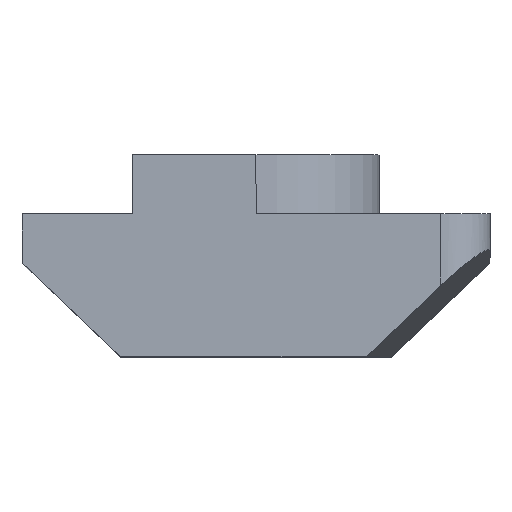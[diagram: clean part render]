
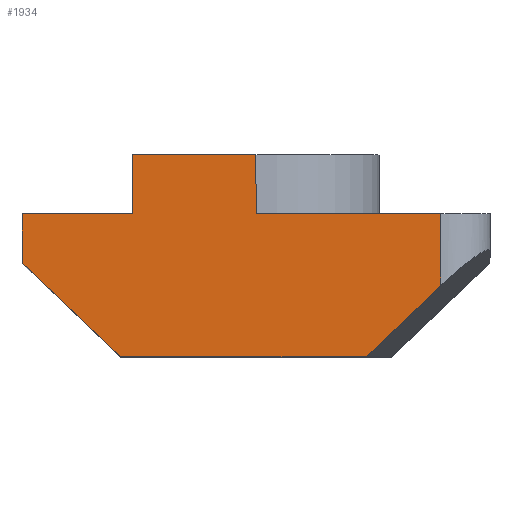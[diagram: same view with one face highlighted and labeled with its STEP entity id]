
A CAD part, top view. The second image highlights one B-rep face of the part: STEP entity #1934.
In plain terms, the highlighted planar face has unit normal (0, 0, 1).
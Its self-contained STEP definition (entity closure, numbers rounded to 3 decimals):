
#33 = VECTOR ( 'NONE', #515, 1000. ) ;
#40 = DIRECTION ( 'NONE',  ( 0., 0., 1. ) ) ;
#93 = FACE_OUTER_BOUND ( 'NONE', #1431, .T. ) ;
#141 = ORIENTED_EDGE ( 'NONE', *, *, #2333, .F. ) ;
#143 = CARTESIAN_POINT ( 'NONE',  ( -5.5, 0., 5. ) ) ;
#177 = LINE ( 'NONE', #3075, #1400 ) ;
#364 = CARTESIAN_POINT ( 'NONE',  ( 0., 0., 5. ) ) ;
#378 = VERTEX_POINT ( 'NONE', #2121 ) ;
#396 = VERTEX_POINT ( 'NONE', #143 ) ;
#505 = VECTOR ( 'NONE', #2430, 1000. ) ;
#515 = DIRECTION ( 'NONE',  ( 0., 1., 0. ) ) ;
#632 = VECTOR ( 'NONE', #1448, 1000. ) ;
#672 = EDGE_CURVE ( 'NONE', #396, #1101, #177, .T. ) ;
#752 = VECTOR ( 'NONE', #907, 1000. ) ;
#765 = EDGE_CURVE ( 'NONE', #3116, #1890, #2593, .T. ) ;
#816 = CARTESIAN_POINT ( 'NONE',  ( 7.5, 5.8, 5. ) ) ;
#847 = CARTESIAN_POINT ( 'NONE',  ( 7.5, 0., 5. ) ) ;
#878 = ORIENTED_EDGE ( 'NONE', *, *, #672, .F. ) ;
#902 = ORIENTED_EDGE ( 'NONE', *, *, #2078, .T. ) ;
#907 = DIRECTION ( 'NONE',  ( 0.725, 0.689, 0. ) ) ;
#912 = EDGE_CURVE ( 'NONE', #1113, #2270, #3089, .T. ) ;
#952 = ORIENTED_EDGE ( 'NONE', *, *, #1253, .T. ) ;
#1058 = ORIENTED_EDGE ( 'NONE', *, *, #2408, .T. ) ;
#1101 = VERTEX_POINT ( 'NONE', #2154 ) ;
#1113 = VERTEX_POINT ( 'NONE', #1748 ) ;
#1148 = VECTOR ( 'NONE', #1411, 1000. ) ;
#1172 = LINE ( 'NONE', #847, #33 ) ;
#1230 = CARTESIAN_POINT ( 'NONE',  ( 2.123, -2.235, 5. ) ) ;
#1253 = EDGE_CURVE ( 'NONE', #1557, #2270, #1172, .T. ) ;
#1304 = ORIENTED_EDGE ( 'NONE', *, *, #765, .F. ) ;
#1353 = ORIENTED_EDGE ( 'NONE', *, *, #3181, .T. ) ;
#1400 = VECTOR ( 'NONE', #2747, 1000. ) ;
#1411 = DIRECTION ( 'NONE',  ( 1., 0., 0. ) ) ;
#1431 = EDGE_LOOP ( 'NONE', ( #1058, #952, #1818, #1463, #141, #1624, #1304, #902, #878, #1353 ) ) ;
#1432 = EDGE_CURVE ( 'NONE', #378, #1113, #2112, .T. ) ;
#1448 = DIRECTION ( 'NONE',  ( 0., -1., 0. ) ) ;
#1463 = ORIENTED_EDGE ( 'NONE', *, *, #1432, .F. ) ;
#1499 = VECTOR ( 'NONE', #1787, 1000. ) ;
#1557 = VERTEX_POINT ( 'NONE', #1805 ) ;
#1569 = LINE ( 'NONE', #1230, #752 ) ;
#1624 = ORIENTED_EDGE ( 'NONE', *, *, #1957, .T. ) ;
#1642 = DIRECTION ( 'NONE',  ( 1., 0., 0. ) ) ;
#1748 = CARTESIAN_POINT ( 'NONE',  ( 0., 5.8, 5. ) ) ;
#1785 = CARTESIAN_POINT ( 'NONE',  ( 0., 8.2, 5. ) ) ;
#1787 = DIRECTION ( 'NONE',  ( 0., -1., 0. ) ) ;
#1805 = CARTESIAN_POINT ( 'NONE',  ( 7.5, 2.873, 5. ) ) ;
#1818 = ORIENTED_EDGE ( 'NONE', *, *, #912, .F. ) ;
#1890 = VERTEX_POINT ( 'NONE', #2845 ) ;
#1934 = ADVANCED_FACE ( 'NONE', ( #93 ), #2018, .T. ) ;
#1941 = DIRECTION ( 'NONE',  ( 0., -1., 0. ) ) ;
#1957 = EDGE_CURVE ( 'NONE', #2563, #1890, #2609, .T. ) ;
#1973 = CARTESIAN_POINT ( 'NONE',  ( -9.5, 0., 5. ) ) ;
#2018 = PLANE ( 'NONE',  #2108 ) ;
#2060 = DIRECTION ( 'NONE',  ( 1., 0., 0. ) ) ;
#2078 = EDGE_CURVE ( 'NONE', #3116, #1101, #2451, .T. ) ;
#2108 = AXIS2_PLACEMENT_3D ( 'NONE', #364, #40, #2938 ) ;
#2112 = LINE ( 'NONE', #1785, #632 ) ;
#2114 = CARTESIAN_POINT ( 'NONE',  ( -9.5, 5.8, 5. ) ) ;
#2121 = CARTESIAN_POINT ( 'NONE',  ( 0., 8.2, 5. ) ) ;
#2154 = CARTESIAN_POINT ( 'NONE',  ( -9.5, 3.8, 5. ) ) ;
#2260 = CARTESIAN_POINT ( 'NONE',  ( -9.5, 5.8, 5. ) ) ;
#2270 = VERTEX_POINT ( 'NONE', #816 ) ;
#2276 = CARTESIAN_POINT ( 'NONE',  ( -5., 8.2, 5. ) ) ;
#2312 = LINE ( 'NONE', #1973, #2488 ) ;
#2333 = EDGE_CURVE ( 'NONE', #2563, #378, #2728, .T. ) ;
#2397 = CARTESIAN_POINT ( 'NONE',  ( -5., 8.2, 5. ) ) ;
#2408 = EDGE_CURVE ( 'NONE', #2969, #1557, #1569, .T. ) ;
#2423 = VECTOR ( 'NONE', #1941, 1000. ) ;
#2430 = DIRECTION ( 'NONE',  ( 1., 0., 0. ) ) ;
#2451 = LINE ( 'NONE', #2114, #1499 ) ;
#2488 = VECTOR ( 'NONE', #1642, 1000. ) ;
#2563 = VERTEX_POINT ( 'NONE', #3074 ) ;
#2593 = LINE ( 'NONE', #2260, #1148 ) ;
#2609 = LINE ( 'NONE', #2276, #2423 ) ;
#2728 = LINE ( 'NONE', #2397, #2775 ) ;
#2747 = DIRECTION ( 'NONE',  ( -0.725, 0.689, 0. ) ) ;
#2764 = CARTESIAN_POINT ( 'NONE',  ( -9.5, 5.8, 5. ) ) ;
#2775 = VECTOR ( 'NONE', #2060, 1000. ) ;
#2797 = CARTESIAN_POINT ( 'NONE',  ( -9.5, 5.8, 5. ) ) ;
#2845 = CARTESIAN_POINT ( 'NONE',  ( -5., 5.8, 5. ) ) ;
#2938 = DIRECTION ( 'NONE',  ( 1., 0., 0. ) ) ;
#2969 = VERTEX_POINT ( 'NONE', #3097 ) ;
#3074 = CARTESIAN_POINT ( 'NONE',  ( -5., 8.2, 5. ) ) ;
#3075 = CARTESIAN_POINT ( 'NONE',  ( -9.5, 3.8, 5. ) ) ;
#3089 = LINE ( 'NONE', #2764, #505 ) ;
#3097 = CARTESIAN_POINT ( 'NONE',  ( 4.476, 0., 5. ) ) ;
#3116 = VERTEX_POINT ( 'NONE', #2797 ) ;
#3181 = EDGE_CURVE ( 'NONE', #396, #2969, #2312, .T. ) ;
